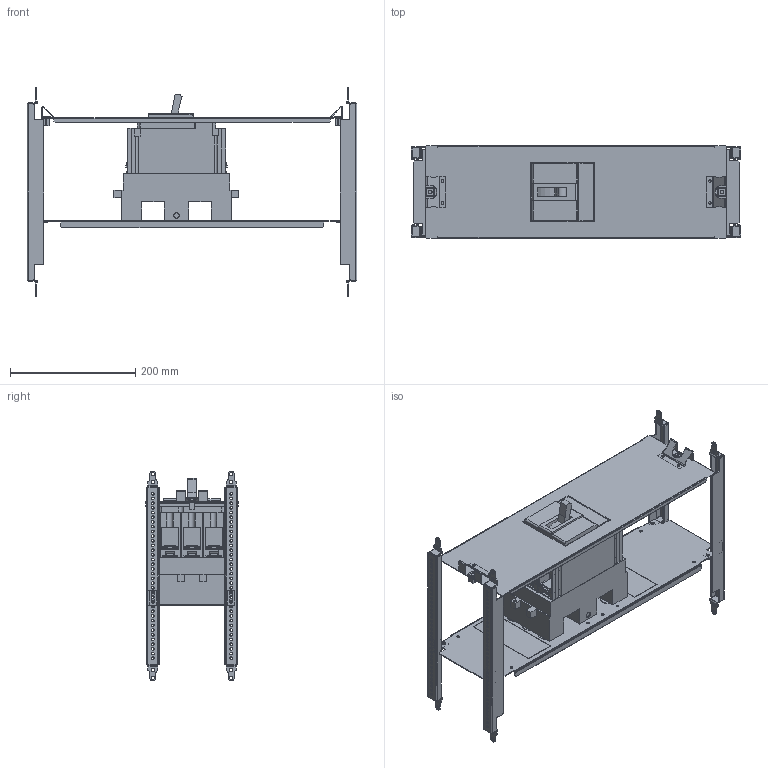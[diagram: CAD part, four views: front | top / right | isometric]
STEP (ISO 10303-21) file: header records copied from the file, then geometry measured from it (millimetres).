
FILE_DESCRIPTION(('CAx-IF Rec.Pracs.---Model Styling and Organization---1.2---2011-12-15','CAx-IF Rec.Pracs.---Geometric and Assembly Validation Properties---4.1---2014-06-16','CAx-IF Rec.Pracs.---PMI Polyline Presentation---2.0---2013-05-24'),'2;1');
FILE_NAME('R5PKIB7H62213 (P).stp','2021-07-29T03:07:15+03:00',(''),(''),'STEP Interface 4.4 by CT CoreTechnologie','3D_Evolution4.4 by CT CoreTechnologie','');
FILE_SCHEMA(('AUTOMOTIVE_DESIGN { 1 0 10303 214 1 1 1 1 }'));
Length unit declared in the file: millimetre
Products named in the file (1): R5PKIB7H62213 (P)
Bounding box: 526 x 148 x 335 mm (x, y, z)
Surface area: 695923 mm2 (no closed solid volume)
Topology: 0 solids, 49 shells, 1936 faces, 5726 edges, 3896 vertices
Faces by surface type: plane 1221, cylinder 648, bspline 67
Entity records: 66427 total; most frequent: CARTESIAN_POINT 12531, ORIENTED_EDGE 11426, DIRECTION 10816, EDGE_CURVE 5716, VECTOR 4320, LINE 4320, VERTEX_POINT 3913, AXIS2_PLACEMENT_3D 3248
